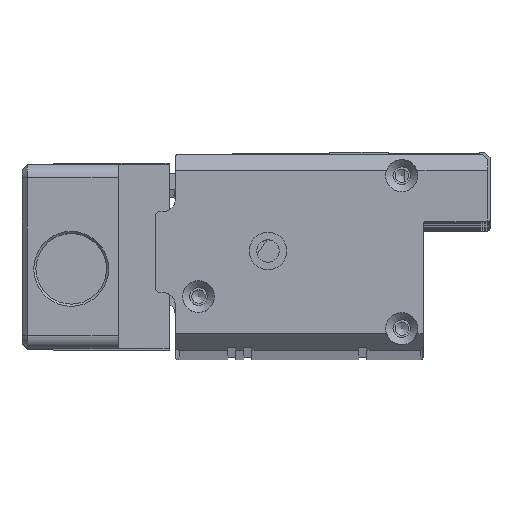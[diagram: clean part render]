
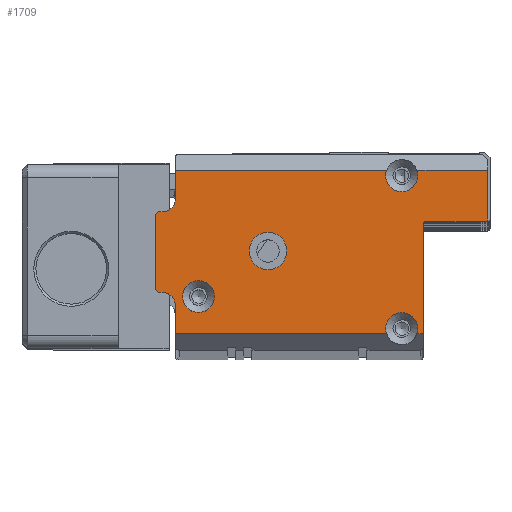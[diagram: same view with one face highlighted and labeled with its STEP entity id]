
A CAD part, top view. The second image highlights one B-rep face of the part: STEP entity #1709.
In plain terms, the highlighted planar face has unit normal (0, 0, 1).
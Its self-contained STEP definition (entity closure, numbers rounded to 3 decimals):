
#1709=ADVANCED_FACE('',(#2567,#2568,#2569),#2289,.T.);
#2289=PLANE('',#15697);
#2567=FACE_BOUND('',#3271,.T.);
#2568=FACE_BOUND('',#3272,.T.);
#2569=FACE_BOUND('',#3273,.T.);
#3271=EDGE_LOOP('',(#9310));
#3272=EDGE_LOOP('',(#9311,#9312,#9313,#9314,#9315,#9316,#9317,#9318,#9319,
#9320,#9321,#9322,#9323,#9324,#9325,#9326,#9327,#9328,#9329,#9330));
#3273=EDGE_LOOP('',(#9331));
#4565=LINE('',#23759,#5963);
#4566=LINE('',#23761,#5964);
#4567=LINE('',#23765,#5965);
#4568=LINE('',#23769,#5966);
#4569=LINE('',#23771,#5967);
#4570=LINE('',#23775,#5968);
#4571=LINE('',#23777,#5969);
#4572=LINE('',#23781,#5970);
#4573=LINE('',#23785,#5971);
#4574=LINE('',#23789,#5972);
#4575=LINE('',#23793,#5973);
#4576=LINE('',#23795,#5974);
#5963=VECTOR('',#18950,1.);
#5964=VECTOR('',#18951,1.);
#5965=VECTOR('',#18954,1.);
#5966=VECTOR('',#18957,1.);
#5967=VECTOR('',#18958,1.);
#5968=VECTOR('',#18961,1.);
#5969=VECTOR('',#18962,1.);
#5970=VECTOR('',#18965,1.);
#5971=VECTOR('',#18968,1.);
#5972=VECTOR('',#18971,1.);
#5973=VECTOR('',#18974,1.);
#5974=VECTOR('',#18975,1.);
#9310=ORIENTED_EDGE('',*,*,#13534,.T.);
#9311=ORIENTED_EDGE('',*,*,#13535,.T.);
#9312=ORIENTED_EDGE('',*,*,#13536,.T.);
#9313=ORIENTED_EDGE('',*,*,#13537,.T.);
#9314=ORIENTED_EDGE('',*,*,#13538,.T.);
#9315=ORIENTED_EDGE('',*,*,#13539,.T.);
#9316=ORIENTED_EDGE('',*,*,#13540,.T.);
#9317=ORIENTED_EDGE('',*,*,#13541,.T.);
#9318=ORIENTED_EDGE('',*,*,#13542,.T.);
#9319=ORIENTED_EDGE('',*,*,#13543,.T.);
#9320=ORIENTED_EDGE('',*,*,#13544,.T.);
#9321=ORIENTED_EDGE('',*,*,#13545,.T.);
#9322=ORIENTED_EDGE('',*,*,#13546,.T.);
#9323=ORIENTED_EDGE('',*,*,#13547,.T.);
#9324=ORIENTED_EDGE('',*,*,#13548,.T.);
#9325=ORIENTED_EDGE('',*,*,#13549,.T.);
#9326=ORIENTED_EDGE('',*,*,#13550,.T.);
#9327=ORIENTED_EDGE('',*,*,#13551,.T.);
#9328=ORIENTED_EDGE('',*,*,#13552,.T.);
#9329=ORIENTED_EDGE('',*,*,#13553,.T.);
#9330=ORIENTED_EDGE('',*,*,#13554,.T.);
#9331=ORIENTED_EDGE('',*,*,#13555,.T.);
#11633=VERTEX_POINT('',#23755);
#11634=VERTEX_POINT('',#23757);
#11635=VERTEX_POINT('',#23758);
#11636=VERTEX_POINT('',#23760);
#11637=VERTEX_POINT('',#23762);
#11638=VERTEX_POINT('',#23764);
#11639=VERTEX_POINT('',#23766);
#11640=VERTEX_POINT('',#23768);
#11641=VERTEX_POINT('',#23770);
#11642=VERTEX_POINT('',#23772);
#11643=VERTEX_POINT('',#23774);
#11644=VERTEX_POINT('',#23776);
#11645=VERTEX_POINT('',#23778);
#11646=VERTEX_POINT('',#23780);
#11647=VERTEX_POINT('',#23782);
#11648=VERTEX_POINT('',#23784);
#11649=VERTEX_POINT('',#23786);
#11650=VERTEX_POINT('',#23788);
#11651=VERTEX_POINT('',#23790);
#11652=VERTEX_POINT('',#23792);
#11653=VERTEX_POINT('',#23794);
#11654=VERTEX_POINT('',#23797);
#13534=EDGE_CURVE('',#11633,#11633,#14598,.T.);
#13535=EDGE_CURVE('',#11634,#11635,#14599,.T.);
#13536=EDGE_CURVE('',#11635,#11636,#4565,.T.);
#13537=EDGE_CURVE('',#11636,#11637,#4566,.T.);
#13538=EDGE_CURVE('',#11637,#11638,#14600,.T.);
#13539=EDGE_CURVE('',#11638,#11639,#4567,.T.);
#13540=EDGE_CURVE('',#11639,#11640,#14601,.T.);
#13541=EDGE_CURVE('',#11640,#11641,#4568,.T.);
#13542=EDGE_CURVE('',#11641,#11642,#4569,.T.);
#13543=EDGE_CURVE('',#11642,#11643,#14602,.T.);
#13544=EDGE_CURVE('',#11643,#11644,#4570,.T.);
#13545=EDGE_CURVE('',#11644,#11645,#4571,.T.);
#13546=EDGE_CURVE('',#11645,#11646,#14603,.T.);
#13547=EDGE_CURVE('',#11646,#11647,#4572,.T.);
#13548=EDGE_CURVE('',#11647,#11648,#14604,.T.);
#13549=EDGE_CURVE('',#11648,#11649,#4573,.T.);
#13550=EDGE_CURVE('',#11649,#11650,#14605,.T.);
#13551=EDGE_CURVE('',#11650,#11651,#4574,.T.);
#13552=EDGE_CURVE('',#11651,#11652,#14606,.T.);
#13553=EDGE_CURVE('',#11652,#11653,#4575,.T.);
#13554=EDGE_CURVE('',#11653,#11634,#4576,.T.);
#13555=EDGE_CURVE('',#11654,#11654,#14607,.T.);
#14598=CIRCLE('',#15687,3.);
#14599=CIRCLE('',#15688,3.);
#14600=CIRCLE('',#15689,0.5);
#14601=CIRCLE('',#15690,0.5);
#14602=CIRCLE('',#15691,3.);
#14603=CIRCLE('',#15692,2.5);
#14604=CIRCLE('',#15693,0.5);
#14605=CIRCLE('',#15694,0.5);
#14606=CIRCLE('',#15695,2.5);
#14607=CIRCLE('',#15696,3.5);
#15687=AXIS2_PLACEMENT_3D('',#23754,#18946,#18947);
#15688=AXIS2_PLACEMENT_3D('',#23756,#18948,#18949);
#15689=AXIS2_PLACEMENT_3D('',#23763,#18952,#18953);
#15690=AXIS2_PLACEMENT_3D('',#23767,#18955,#18956);
#15691=AXIS2_PLACEMENT_3D('',#23773,#18959,#18960);
#15692=AXIS2_PLACEMENT_3D('',#23779,#18963,#18964);
#15693=AXIS2_PLACEMENT_3D('',#23783,#18966,#18967);
#15694=AXIS2_PLACEMENT_3D('',#23787,#18969,#18970);
#15695=AXIS2_PLACEMENT_3D('',#23791,#18972,#18973);
#15696=AXIS2_PLACEMENT_3D('',#23796,#18976,#18977);
#15697=AXIS2_PLACEMENT_3D('',#23798,#18978,#18979);
#18946=DIRECTION('',(0.,0.,-1.));
#18947=DIRECTION('',(-1.,0.,0.));
#18948=DIRECTION('',(0.,0.,-1.));
#18949=DIRECTION('',(-1.,0.,0.));
#18950=DIRECTION('',(1.,0.,0.));
#18951=DIRECTION('',(0.,1.,0.));
#18952=DIRECTION('',(0.,0.,-1.));
#18953=DIRECTION('',(1.,0.,0.));
#18954=DIRECTION('',(1.,0.,0.));
#18955=DIRECTION('',(0.,0.,1.));
#18956=DIRECTION('',(1.,0.,0.));
#18957=DIRECTION('',(0.,1.,0.));
#18958=DIRECTION('',(-1.,0.,0.));
#18959=DIRECTION('',(0.,0.,-1.));
#18960=DIRECTION('',(-1.,0.,0.));
#18961=DIRECTION('',(-1.,0.,0.));
#18962=DIRECTION('',(0.,-1.,0.));
#18963=DIRECTION('',(0.,0.,-1.));
#18964=DIRECTION('',(1.,0.,0.));
#18965=DIRECTION('',(-1.,0.,0.));
#18966=DIRECTION('',(0.,0.,1.));
#18967=DIRECTION('',(1.,0.,0.));
#18968=DIRECTION('',(0.,-1.,0.));
#18969=DIRECTION('',(0.,0.,1.));
#18970=DIRECTION('',(1.,0.,0.));
#18971=DIRECTION('',(1.,0.,0.));
#18972=DIRECTION('',(0.,0.,-1.));
#18973=DIRECTION('',(1.,0.,0.));
#18974=DIRECTION('',(0.,-1.,0.));
#18975=DIRECTION('',(1.,0.,0.));
#18976=DIRECTION('',(0.,0.,-1.));
#18977=DIRECTION('',(-1.,0.,0.));
#18978=DIRECTION('',(0.,0.,1.));
#18979=DIRECTION('',(-1.,0.,0.));
#23754=CARTESIAN_POINT('',(8.,-26.6,8.));
#23755=CARTESIAN_POINT('',(5.,-26.6,8.));
#23756=CARTESIAN_POINT('',(46.,-32.6,8.));
#23757=CARTESIAN_POINT('',(43.172,-33.6,8.));
#23758=CARTESIAN_POINT('',(48.828,-33.6,8.));
#23759=CARTESIAN_POINT('',(50.,-33.6,8.));
#23760=CARTESIAN_POINT('',(50.,-33.6,8.));
#23761=CARTESIAN_POINT('',(50.,-36.6,8.));
#23762=CARTESIAN_POINT('',(50.,-13.1,8.));
#23763=CARTESIAN_POINT('',(50.5,-13.1,8.));
#23764=CARTESIAN_POINT('',(50.5,-12.6,8.));
#23765=CARTESIAN_POINT('',(50.,-12.6,8.));
#23766=CARTESIAN_POINT('',(61.6,-12.6,8.));
#23767=CARTESIAN_POINT('',(61.6,-12.1,8.));
#23768=CARTESIAN_POINT('',(62.1,-12.1,8.));
#23769=CARTESIAN_POINT('',(62.1,-12.6,8.));
#23770=CARTESIAN_POINT('',(62.1,-3.,8.));
#23771=CARTESIAN_POINT('',(3.7,-3.,8.));
#23772=CARTESIAN_POINT('',(48.828,-3.,8.));
#23773=CARTESIAN_POINT('',(46.,-4.,8.));
#23774=CARTESIAN_POINT('',(43.172,-3.,8.));
#23775=CARTESIAN_POINT('',(3.7,-3.,8.));
#23776=CARTESIAN_POINT('',(3.7,-3.,8.));
#23777=CARTESIAN_POINT('',(3.7,0.,8.));
#23778=CARTESIAN_POINT('',(3.7,-8.3,8.));
#23779=CARTESIAN_POINT('',(1.2,-8.3,8.));
#23780=CARTESIAN_POINT('',(1.2,-10.8,8.));
#23781=CARTESIAN_POINT('',(3.7,-10.8,8.));
#23782=CARTESIAN_POINT('',(0.5,-10.8,8.));
#23783=CARTESIAN_POINT('',(0.5,-11.3,8.));
#23784=CARTESIAN_POINT('',(0.,-11.3,8.));
#23785=CARTESIAN_POINT('',(0.,-10.8,8.));
#23786=CARTESIAN_POINT('',(0.,-25.3,8.));
#23787=CARTESIAN_POINT('',(0.5,-25.3,8.));
#23788=CARTESIAN_POINT('',(0.5,-25.8,8.));
#23789=CARTESIAN_POINT('',(0.,-25.8,8.));
#23790=CARTESIAN_POINT('',(1.2,-25.8,8.));
#23791=CARTESIAN_POINT('',(1.2,-28.3,8.));
#23792=CARTESIAN_POINT('',(3.7,-28.3,8.));
#23793=CARTESIAN_POINT('',(3.7,-25.8,8.));
#23794=CARTESIAN_POINT('',(3.7,-33.6,8.));
#23795=CARTESIAN_POINT('',(50.,-33.6,8.));
#23796=CARTESIAN_POINT('',(21.,-18.1,8.));
#23797=CARTESIAN_POINT('',(17.5,-18.1,8.));
#23798=CARTESIAN_POINT('',(0.,0.,8.));
